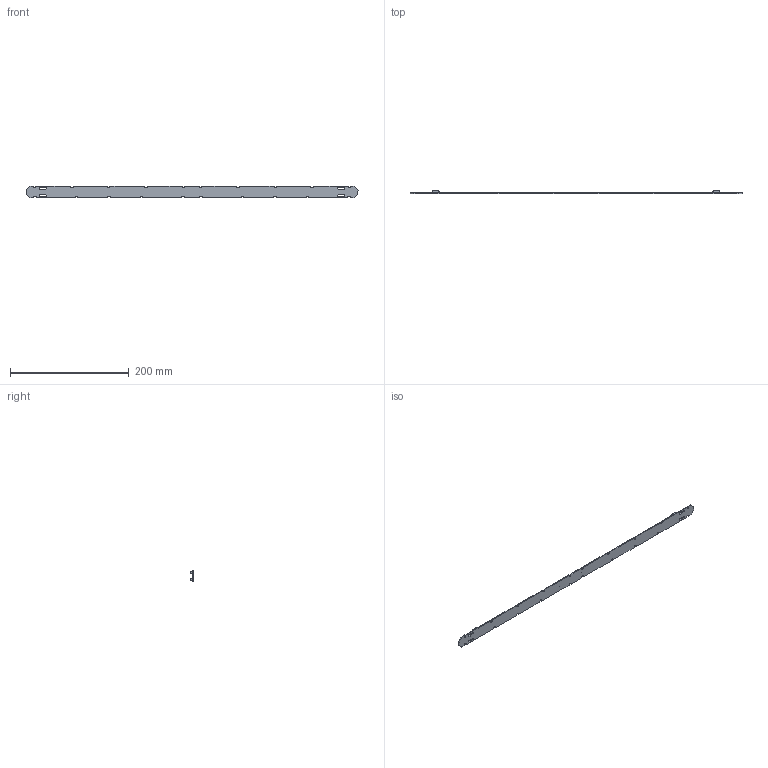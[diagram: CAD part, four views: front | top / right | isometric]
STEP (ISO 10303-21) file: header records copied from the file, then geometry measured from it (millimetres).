
FILE_DESCRIPTION (( 'STEP AP214' ), '1' );
FILE_NAME ('4162861swm000.step', '2020-02-19T13:51:47', ( 'OSRAM' ), ( 'OSRAM' ), 'SwSTEP 2.0', 'SolidWorks 2017', '' );
FILE_SCHEMA (( 'AUTOMOTIVE_DESIGN' ));
Length unit declared in the file: millimetre
Products named in the file (4): 3792700swm000; 3752457swm000; 4162866swm000; 4162861swm000
Assembly tree (6 placements, depth 2):
  4162861swm000
    4162866swm000
    3752457swm000
    3792700swm000  x4
Bounding box: 559.5 x 5.55 x 20 mm (x, y, z)
Volume: 18434.1 mm3; surface area: 27247.8 mm2
Topology: 101 solids, 101 shells, 2190 faces, 5536 edges, 3656 vertices
Faces by surface type: plane 1894, cylinder 176, bspline 112, cone 8
Entity records: 75904 total; most frequent: CARTESIAN_POINT 10652, ORIENTED_EDGE 9336, DIRECTION 8361, EDGE_CURVE 4668, LINE 4441, VECTOR 4441, VERTEX_POINT 3104, EDGE_LOOP 1968
